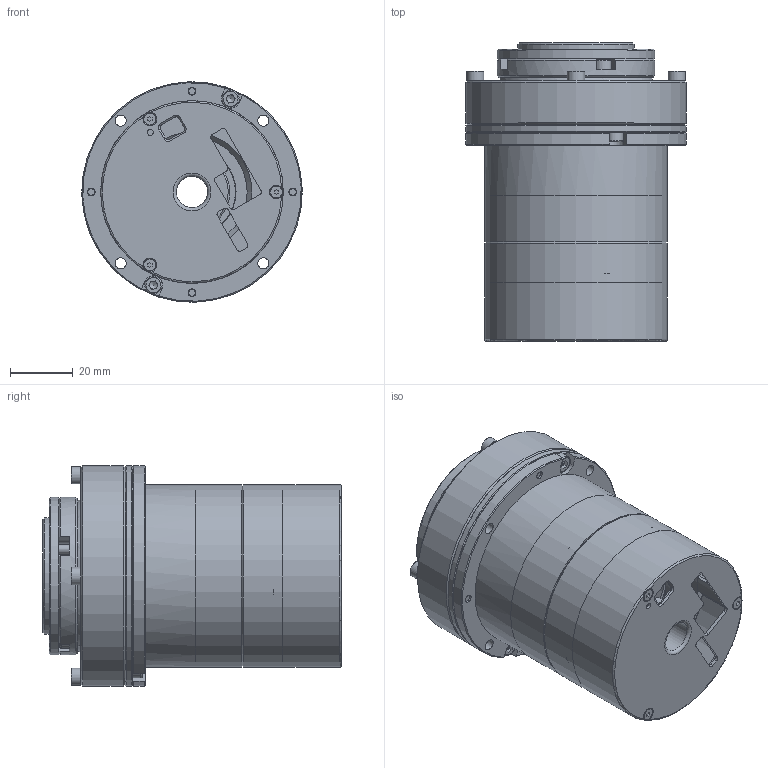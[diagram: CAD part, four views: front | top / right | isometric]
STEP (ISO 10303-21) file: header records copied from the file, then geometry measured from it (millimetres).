
FILE_DESCRIPTION (( 'STEP AP203' ), '1' );
FILE_NAME ('RH-14-100-E-B-D.STEP', '2026-01-08T09:15:04', ( '' ), ( '' ), 'SwSTEP 2.0', 'SolidWorks 2020', '' );
FILE_SCHEMA (( 'CONFIG_CONTROL_DESIGN' ));
Length unit declared in the file: millimetre
Products named in the file (16): 内六角沉头螺钉M2×20_M2×20; 8MT.013.147 RH14 减速机密封盖-双编+抱闸-A0_Default<按加工>; 肣翐 M2x6+3; RH-14-100-E-B-D; GB╱T 70.1-2008[内六角圆柱头螺钉M2×12]_M2×12; WHS-14-XX-I_Default<偌樓馱>; GB╱T 70.1-2008[内六角圆柱头螺钉M2.5×8]_M2.5×8; 6706-2RZ P5 CM V3-V1; GB╱T 70.1-2008[内六角圆柱头螺钉M3×20]_M3×20; 8MT.013.059（RH-14 驱动器盖-ECAT）; 8MT.013.149 RH14 惕掅裔-A0_Default<偌樓馱>; 内六角沉头螺钉M3×12_M3×12; 8MT.215.001（波形弹簧D32）; 8MT.034.001（RH-14 机座）; 坋趼羞埴芛蹟隊M2X4; 8MT.013.148 RH14 傷裔-邧晤+惕掅-A0
Assembly tree (35 placements, depth 2):
  RH-14-100-E-B-D
    8MT.034.001（RH-14 机座）
    8MT.013.059（RH-14 驱动器盖-ECAT）
    8MT.013.148 RH14 傷裔-邧晤+惕掅-A0
    肣翐 M2x6+3  x3
    8MT.013.147 RH14 减速机密封盖-双编+抱闸-A0_Default<按加工>
    8MT.215.001（波形弹簧D32）
    8MT.013.149 RH14 惕掅裔-A0_Default<偌樓馱>
    WHS-14-XX-I_Default<偌樓馱>
    内六角沉头螺钉M3×12_M3×12  x2
    GB╱T 70.1-2008[内六角圆柱头螺钉M3×20]_M3×20  x4
    内六角沉头螺钉M2×20_M2×20  x3
    GB╱T 70.1-2008[内六角圆柱头螺钉M2×12]_M2×12  x9
    GB╱T 70.1-2008[内六角圆柱头螺钉M2.5×8]_M2.5×8  x3
    坋趼羞埴芛蹟隊M2X4  x3
    6706-2RZ P5 CM V3-V1
Bounding box: 70 x 94.7 x 70 mm (x, y, z)
Volume: 118591 mm3; surface area: 107602.9 mm2
Topology: 53 solids, 53 shells, 1295 faces, 3161 edges, 2029 vertices
Faces by surface type: plane 536, cylinder 395, cone 199, bspline 94, torus 68, sphere 3
Full cylindrical faces by diameter (mm): 1.6 x22, 1.742 x3, 1.9 x1, 1.955 x3, 2 x16, 2.05 x5, 2.2 x4, 2.4 x13, 2.5 x29, 2.678 x2, 3 x10, 3.4 x2, 3.5 x44, 3.8 x13, 4.3 x18, 4.4 x2, 4.5 x3, 5.5 x10, 10 x2, 12 x2, 12.5 x1, 12.7 x1, 24 x2, 25.07 x2, 27.47 x1, 27.6 x2, 28 x2, 30 x1, 30.5 x1, 31.4 x2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
Entity records: 31956 total; most frequent: CARTESIAN_POINT 8084, DIRECTION 4618, ORIENTED_EDGE 3882, AXIS2_PLACEMENT_3D 2006, EDGE_CURVE 1941, EDGE_LOOP 1635, VERTEX_POINT 1438, FACE_OUTER_BOUND 1251
